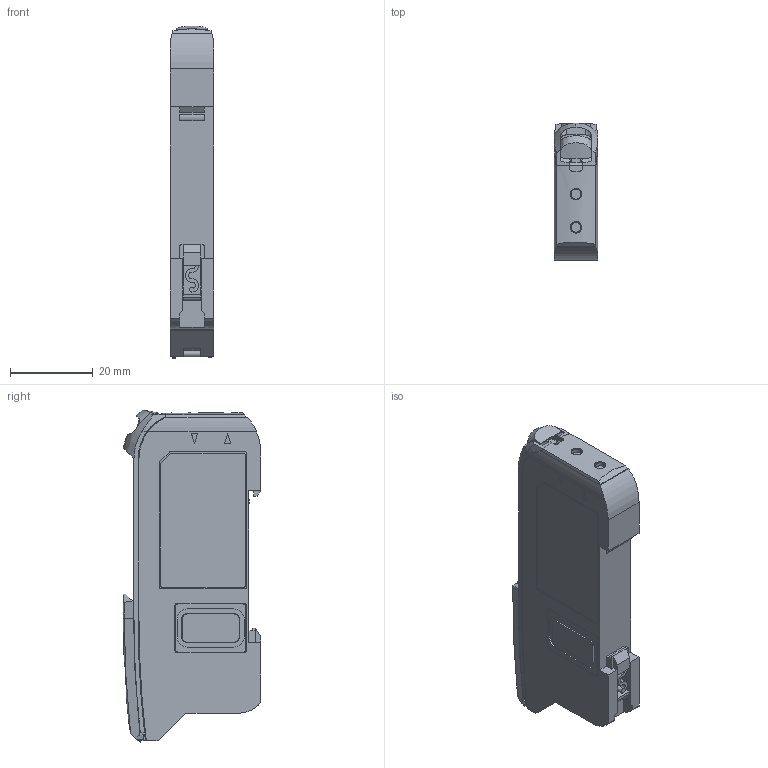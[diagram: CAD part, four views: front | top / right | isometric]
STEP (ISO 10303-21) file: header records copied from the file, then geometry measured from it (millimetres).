
FILE_DESCRIPTION (( 'STEP AP214' ), '1' );
FILE_NAME ('D4RF-TM-0_220425.STEP', '2022-04-25T11:01:17', ( '' ), ( '' ), 'SwSTEP 2.0', 'SolidWorks 2021', '' );
FILE_SCHEMA (( 'AUTOMOTIVE_DESIGN' ));
Length unit declared in the file: millimetre
Products named in the file (3): 220425361; 220425370; D4RF-TM-0_220425
Assembly tree (2 placements, depth 2):
  D4RF-TM-0_220425
    220425370
    220425361
Bounding box: 10.55 x 33.2 x 80.1 mm (x, y, z)
Volume: 22526.1 mm3; surface area: 9103.9 mm2
Topology: 2 solids, 17 shells, 755 faces, 1965 edges, 1253 vertices
Faces by surface type: plane 376, cylinder 186, bspline 162, cone 31
Entity records: 36701 total; most frequent: CARTESIAN_POINT 11322, ORIENTED_EDGE 3890, DIRECTION 2881, EDGE_CURVE 1945, VERTEX_POINT 1253, LINE 1061, VECTOR 1061, AXIS2_PLACEMENT_3D 910
